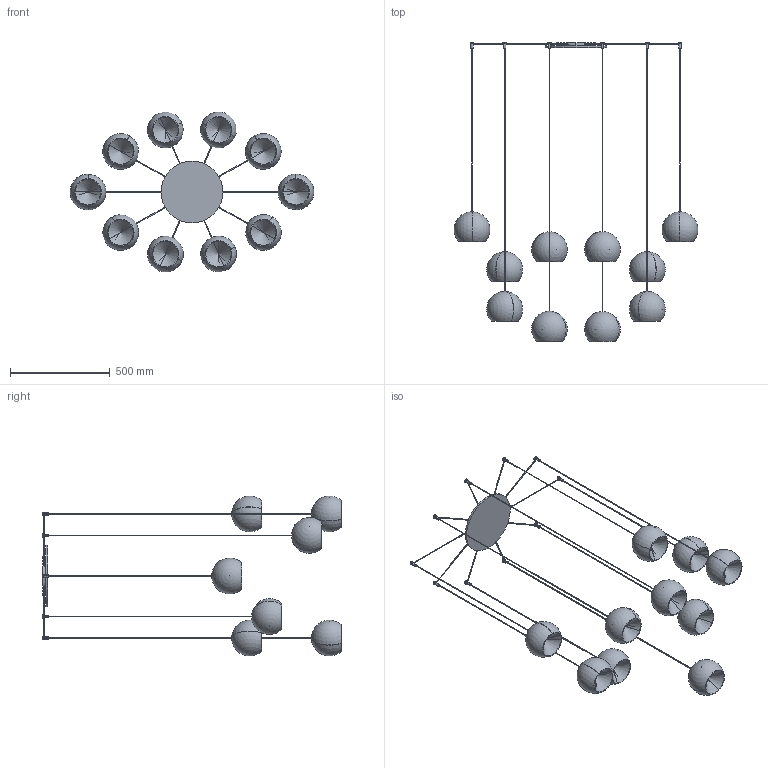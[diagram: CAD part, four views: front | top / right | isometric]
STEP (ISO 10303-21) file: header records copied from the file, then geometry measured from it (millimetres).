
FILE_DESCRIPTION (( 'STEP AP203' ), '1' );
FILE_NAME ('CHR11-00-CHERRY_10 sospensione.STEP', '2024-07-31T08:33:55', ( '' ), ( '' ), 'SwSTEP 2.0', 'SolidWorks 2022', '' );
FILE_SCHEMA (( 'CONFIG_CONTROL_DESIGN' ));
Length unit declared in the file: millimetre
Products named in the file (7): CHERRY_Lampada singola Diam.180_H=1500; CHERRY_Lampada singola Diam.180_H=1600; CHR11-00-CHERRY_10 sospensione; CHERRY_Lampada singola Diam.180_H=1900; CHERRY_Lampada singola Diam.180_H=2000; CHERRY_Rosone diam.310_Cherry 11<A macchina>; CHERRY_Lampada singola Diam.180_H=1800
Assembly tree (11 placements, depth 2):
  CHR11-00-CHERRY_10 sospensione
    CHERRY_Rosone diam.310_Cherry 11<A macchina>
    CHERRY_Lampada singola Diam.180_H=1500  x2
    CHERRY_Lampada singola Diam.180_H=1900  x2
    CHERRY_Lampada singola Diam.180_H=1600  x2
    CHERRY_Lampada singola Diam.180_H=2000  x2
    CHERRY_Lampada singola Diam.180_H=1800  x2
Bounding box: 1223.82 x 1500 x 802.82 mm (x, y, z)
Volume: 3279603.2 mm3; surface area: 2459188.1 mm2
Topology: 51 solids, 51 shells, 380 faces, 905 edges, 568 vertices
Faces by surface type: cylinder 185, plane 115, sphere 40, cone 40
Entity records: 6894 total; most frequent: CARTESIAN_POINT 1443, DIRECTION 1053, ORIENTED_EDGE 870, AXIS2_PLACEMENT_3D 466, EDGE_CURVE 435, VERTEX_POINT 288, EDGE_LOOP 241, CIRCLE 232
